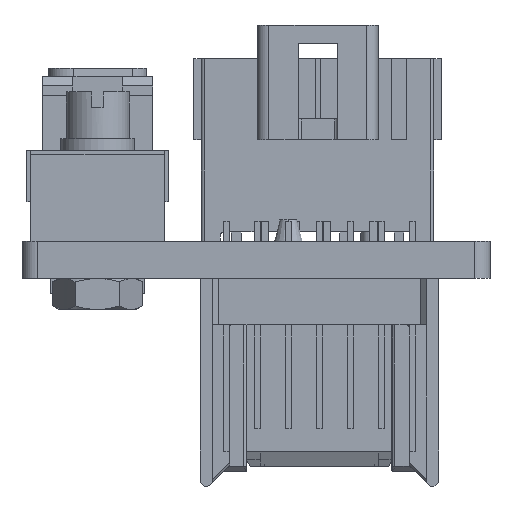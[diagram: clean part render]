
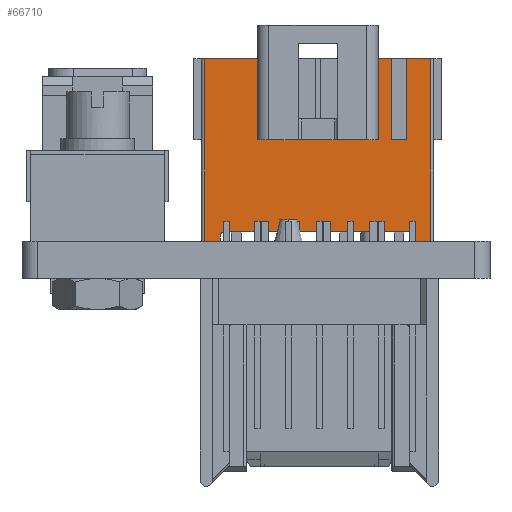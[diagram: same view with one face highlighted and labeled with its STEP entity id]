
A CAD part, front view. The second image highlights one B-rep face of the part: STEP entity #66710.
In plain terms, the highlighted planar face has unit normal (0, -1, 0).
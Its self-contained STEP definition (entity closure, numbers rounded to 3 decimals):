
#4443=DIRECTION('',(-1.,0.,0.));
#4444=VECTOR('',#4443,1.);
#4445=CARTESIAN_POINT('',(5.19,-14.49,2.4));
#4446=LINE('',#4445,#4444);
#4464=DIRECTION('',(-1.,0.,0.));
#4465=VECTOR('',#4464,1.);
#4466=CARTESIAN_POINT('',(-8.41,-14.49,2.4));
#4467=LINE('',#4466,#4465);
#5954=DIRECTION('',(0.,0.,1.));
#5955=VECTOR('',#5954,0.35);
#5956=CARTESIAN_POINT('',(4.19,-14.49,2.4));
#5957=LINE('',#5956,#5955);
#5958=CARTESIAN_POINT('',(3.94,-14.49,2.75));
#5959=DIRECTION('',(0.,-1.,0.));
#5960=DIRECTION('',(1.,0.,0.));
#5961=AXIS2_PLACEMENT_3D('',#5958,#5959,#5960);
#5963=DIRECTION('',(-1.,0.,0.));
#5964=VECTOR('',#5963,12.1);
#5965=CARTESIAN_POINT('',(3.94,-14.49,3.));
#5966=LINE('',#5965,#5964);
#5967=CARTESIAN_POINT('',(-8.16,-14.49,2.75));
#5968=DIRECTION('',(0.,-1.,0.));
#5969=DIRECTION('',(0.,0.,1.));
#5970=AXIS2_PLACEMENT_3D('',#5967,#5968,#5969);
#5972=DIRECTION('',(0.,0.,1.));
#5973=VECTOR('',#5972,0.35);
#5974=CARTESIAN_POINT('',(-8.41,-14.49,2.4));
#5975=LINE('',#5974,#5973);
#5976=DIRECTION('',(0.,0.,-1.));
#5977=VECTOR('',#5976,11.8);
#5978=CARTESIAN_POINT('',(-9.41,-14.49,14.2));
#5979=LINE('',#5978,#5977);
#5980=DIRECTION('',(-1.,0.,0.));
#5981=VECTOR('',#5980,3.4);
#5982=CARTESIAN_POINT('',(-6.01,-14.49,14.2));
#5983=LINE('',#5982,#5981);
#5984=DIRECTION('',(0.,0.,-1.));
#5985=VECTOR('',#5984,5.25);
#5986=CARTESIAN_POINT('',(-6.01,-14.49,14.2));
#5987=LINE('',#5986,#5985);
#5988=DIRECTION('',(-1.,0.,0.));
#5989=VECTOR('',#5988,7.8);
#5990=CARTESIAN_POINT('',(1.79,-14.49,8.95));
#5991=LINE('',#5990,#5989);
#5992=DIRECTION('',(0.,0.,-1.));
#5993=VECTOR('',#5992,5.25);
#5994=CARTESIAN_POINT('',(1.79,-14.49,14.2));
#5995=LINE('',#5994,#5993);
#5996=DIRECTION('',(-1.,0.,0.));
#5997=VECTOR('',#5996,0.85);
#5998=CARTESIAN_POINT('',(2.64,-14.49,14.2));
#5999=LINE('',#5998,#5997);
#6000=DIRECTION('',(0.,0.,-1.));
#6001=VECTOR('',#6000,5.25);
#6002=CARTESIAN_POINT('',(2.64,-14.49,14.2));
#6003=LINE('',#6002,#6001);
#6004=DIRECTION('',(1.,0.,0.));
#6005=VECTOR('',#6004,1.);
#6006=CARTESIAN_POINT('',(2.64,-14.49,8.95));
#6007=LINE('',#6006,#6005);
#6008=DIRECTION('',(0.,0.,-1.));
#6009=VECTOR('',#6008,5.25);
#6010=CARTESIAN_POINT('',(3.64,-14.49,14.2));
#6011=LINE('',#6010,#6009);
#6012=DIRECTION('',(-1.,0.,0.));
#6013=VECTOR('',#6012,1.55);
#6014=CARTESIAN_POINT('',(5.19,-14.49,14.2));
#6015=LINE('',#6014,#6013);
#6016=DIRECTION('',(0.,0.,1.));
#6017=VECTOR('',#6016,11.8);
#6018=CARTESIAN_POINT('',(5.19,-14.49,2.4));
#6019=LINE('',#6018,#6017);
#58680=CARTESIAN_POINT('',(1.79,-14.49,14.2));
#58681=CARTESIAN_POINT('',(1.79,-14.49,8.95));
#58682=VERTEX_POINT('',#58680);
#58683=VERTEX_POINT('',#58681);
#58684=CARTESIAN_POINT('',(-6.01,-14.49,14.2));
#58685=CARTESIAN_POINT('',(-6.01,-14.49,8.95));
#58686=VERTEX_POINT('',#58684);
#58687=VERTEX_POINT('',#58685);
#58696=CARTESIAN_POINT('',(4.19,-14.49,2.75));
#58697=CARTESIAN_POINT('',(3.94,-14.49,3.));
#58698=VERTEX_POINT('',#58696);
#58699=VERTEX_POINT('',#58697);
#58700=CARTESIAN_POINT('',(-8.16,-14.49,3.));
#58701=VERTEX_POINT('',#58700);
#58702=CARTESIAN_POINT('',(-8.41,-14.49,2.75));
#58703=VERTEX_POINT('',#58702);
#58898=CARTESIAN_POINT('',(3.64,-14.49,14.2));
#58899=CARTESIAN_POINT('',(3.64,-14.49,8.95));
#58900=VERTEX_POINT('',#58898);
#58901=VERTEX_POINT('',#58899);
#58902=CARTESIAN_POINT('',(2.64,-14.49,14.2));
#58903=CARTESIAN_POINT('',(2.64,-14.49,8.95));
#58904=VERTEX_POINT('',#58902);
#58905=VERTEX_POINT('',#58903);
#59609=CARTESIAN_POINT('',(5.19,-14.49,14.2));
#59611=VERTEX_POINT('',#59609);
#59618=CARTESIAN_POINT('',(-9.41,-14.49,14.2));
#59620=VERTEX_POINT('',#59618);
#60250=CARTESIAN_POINT('',(5.19,-14.49,2.4));
#60251=CARTESIAN_POINT('',(4.19,-14.49,2.4));
#60252=VERTEX_POINT('',#60250);
#60253=VERTEX_POINT('',#60251);
#60254=CARTESIAN_POINT('',(-8.41,-14.49,2.4));
#60255=CARTESIAN_POINT('',(-9.41,-14.49,2.4));
#60256=VERTEX_POINT('',#60254);
#60257=VERTEX_POINT('',#60255);
#66672=CARTESIAN_POINT('',(-2.11,-14.49,8.3));
#66673=DIRECTION('',(0.,-1.,0.));
#66674=DIRECTION('',(-1.,0.,0.));
#66675=AXIS2_PLACEMENT_3D('',#66672,#66673,#66674);
#66676=PLANE('',#66675);
#66677=ORIENTED_EDGE('',*,*,#64872,.T.);
#66678=ORIENTED_EDGE('',*,*,#66640,.T.);
#66679=ORIENTED_EDGE('',*,*,#66619,.T.);
#66680=ORIENTED_EDGE('',*,*,#66033,.T.);
#66682=ORIENTED_EDGE('',*,*,#66681,.T.);
#66684=ORIENTED_EDGE('',*,*,#66683,.F.);
#66685=ORIENTED_EDGE('',*,*,#64884,.T.);
#66687=ORIENTED_EDGE('',*,*,#66686,.F.);
#66689=ORIENTED_EDGE('',*,*,#66688,.F.);
#66691=ORIENTED_EDGE('',*,*,#66690,.T.);
#66693=ORIENTED_EDGE('',*,*,#66692,.F.);
#66695=ORIENTED_EDGE('',*,*,#66694,.F.);
#66697=ORIENTED_EDGE('',*,*,#66696,.F.);
#66699=ORIENTED_EDGE('',*,*,#66698,.T.);
#66701=ORIENTED_EDGE('',*,*,#66700,.T.);
#66703=ORIENTED_EDGE('',*,*,#66702,.F.);
#66705=ORIENTED_EDGE('',*,*,#66704,.F.);
#66707=ORIENTED_EDGE('',*,*,#66706,.F.);
#66708=EDGE_LOOP('',(#66677,#66678,#66679,#66680,#66682,#66684,#66685,#66687,
#66689,#66691,#66693,#66695,#66697,#66699,#66701,#66703,#66705,#66707));
#66709=FACE_OUTER_BOUND('',#66708,.F.);
#5962=CIRCLE('',#5961,0.25);
#5971=CIRCLE('',#5970,0.25);
#64872=EDGE_CURVE('',#60252,#60253,#4446,.T.);
#64884=EDGE_CURVE('',#60256,#60257,#4467,.T.);
#66033=EDGE_CURVE('',#58699,#58701,#5966,.T.);
#66619=EDGE_CURVE('',#58698,#58699,#5962,.T.);
#66640=EDGE_CURVE('',#60253,#58698,#5957,.T.);
#66681=EDGE_CURVE('',#58701,#58703,#5971,.T.);
#66683=EDGE_CURVE('',#60256,#58703,#5975,.T.);
#66686=EDGE_CURVE('',#59620,#60257,#5979,.T.);
#66688=EDGE_CURVE('',#58686,#59620,#5983,.T.);
#66690=EDGE_CURVE('',#58686,#58687,#5987,.T.);
#66692=EDGE_CURVE('',#58683,#58687,#5991,.T.);
#66694=EDGE_CURVE('',#58682,#58683,#5995,.T.);
#66696=EDGE_CURVE('',#58904,#58682,#5999,.T.);
#66698=EDGE_CURVE('',#58904,#58905,#6003,.T.);
#66700=EDGE_CURVE('',#58905,#58901,#6007,.T.);
#66702=EDGE_CURVE('',#58900,#58901,#6011,.T.);
#66704=EDGE_CURVE('',#59611,#58900,#6015,.T.);
#66706=EDGE_CURVE('',#60252,#59611,#6019,.T.);
#66710=ADVANCED_FACE('',(#66709),#66676,.T.);
